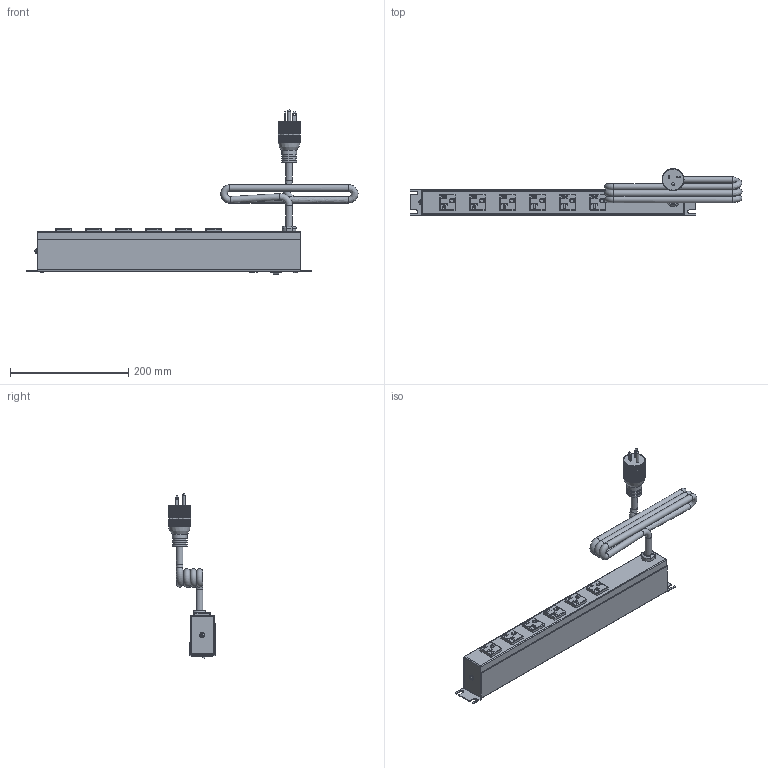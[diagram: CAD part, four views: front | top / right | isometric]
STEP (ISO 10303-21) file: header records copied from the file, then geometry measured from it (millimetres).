
FILE_DESCRIPTION((''),'2;1');
FILE_NAME('E:\Dutton\Manufacturing\drawings\Updated 2009\POWER BARS\1589 RR series\STEP''s\1589T6F1BKRR.stp','2010-01-12T10:19:05',('tfoster'),(''),'Autodesk Inventor 2010','Autodesk Inventor 2010','');
FILE_SCHEMA(('AUTOMOTIVE_DESIGN { 1 0 10303 214 1 1 1 1 }'));
Products named in the file (10): 1589T6F1BKRR; 1589H6 & H8 RR Front Panel; 1589H6 RR back plate; #6x0.5 type A; Reset Switch; Pilot light; toothwasher; round head 1-way 8-32 x 0.5 screw; 20 amp Cored; 20 Amp Receptacle
Assembly tree (17 placements, depth 2):
  1589T6F1BKRR
    1589H6 & H8 RR Front Panel
    1589H6 RR back plate
    #6x0.5 type A  x4
    Reset Switch
    Pilot light
    toothwasher
    round head 1-way 8-32 x 0.5 screw
    20 amp Cored
    20 Amp Receptacle  x6
Bounding box: 560.88 x 78.32 x 277.79 mm (x, y, z)
Volume: 432586 mm3; surface area: 313772.6 mm2
Topology: 17 solids, 17 shells, 1155 faces, 3364 edges, 2248 vertices
Faces by surface type: plane 786, cylinder 199, bspline 93, cone 31, sphere 30, torus 16
Full cylindrical faces by diameter (mm): 1.803 x3, 1.905 x2, 2.997 x4, 3.2 x2, 4.3 x1, 4.801 x1, 4.826 x1, 5.563 x4, 7.849 x1, 11 x4, 12.5 x1, 19.05 x1, 22.606 x2, 25.146 x3
Entity records: 27638 total; most frequent: CARTESIAN_POINT 8299, ORIENTED_EDGE 4160, DIRECTION 3649, EDGE_CURVE 2080, VERTEX_POINT 1415, VECTOR 1359, LINE 1359, AXIS2_PLACEMENT_3D 1145
